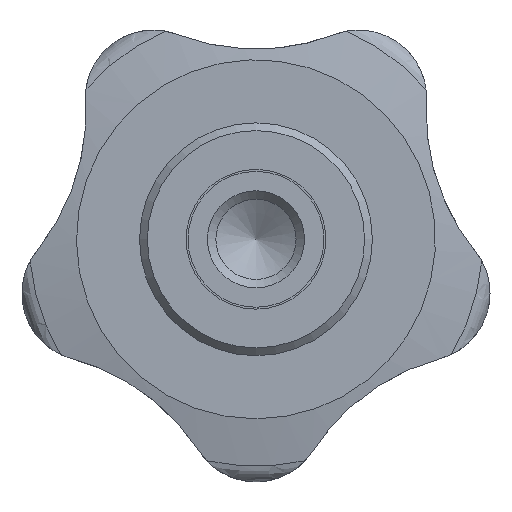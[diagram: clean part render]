
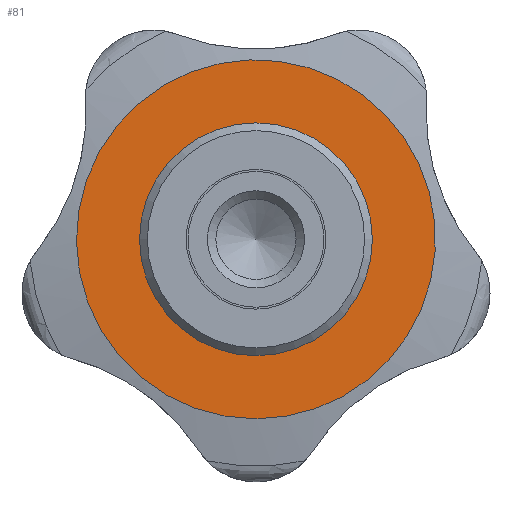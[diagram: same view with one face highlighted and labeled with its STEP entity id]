
A CAD part, front view. The second image highlights one B-rep face of the part: STEP entity #81.
In plain terms, the highlighted planar face has unit normal (0, -1, 0).
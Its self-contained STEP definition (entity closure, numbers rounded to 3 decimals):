
#81 = ADVANCED_FACE( '', ( #125, #126 ), #127, .F. );
#125 = FACE_BOUND( '', #241, .T. );
#126 = FACE_OUTER_BOUND( '', #242, .T. );
#127 = PLANE( '', #243 );
#241 = EDGE_LOOP( '', ( #357 ) );
#242 = EDGE_LOOP( '', ( #358 ) );
#243 = AXIS2_PLACEMENT_3D( '', #359, #360, #361 );
#357 = ORIENTED_EDGE( '', *, *, #606, .F. );
#358 = ORIENTED_EDGE( '', *, *, #607, .T. );
#359 = CARTESIAN_POINT( '', ( 9.25, 10., 0. ) );
#360 = DIRECTION( '', ( 0., 1., 0. ) );
#361 = DIRECTION( '', ( 0., 0., 1. ) );
#606 = EDGE_CURVE( '', #721, #721, #722, .T. );
#607 = EDGE_CURVE( '', #723, #723, #724, .T. );
#721 = VERTEX_POINT( '', #1010 );
#722 = CIRCLE( '', #1011, 6. );
#723 = VERTEX_POINT( '', #1012 );
#724 = CIRCLE( '', #1013, 9.25 );
#1010 = CARTESIAN_POINT( '', ( 0., 10., -6. ) );
#1011 = AXIS2_PLACEMENT_3D( '', #1410, #1411, #1412 );
#1012 = CARTESIAN_POINT( '', ( 0., 10., -9.25 ) );
#1013 = AXIS2_PLACEMENT_3D( '', #1413, #1414, #1415 );
#1410 = CARTESIAN_POINT( '', ( 0., 10., 0. ) );
#1411 = DIRECTION( '', ( 0., -1., 0. ) );
#1412 = DIRECTION( '', ( 0., 0., -1. ) );
#1413 = CARTESIAN_POINT( '', ( 0., 10., 0. ) );
#1414 = DIRECTION( '', ( 0., -1., 0. ) );
#1415 = DIRECTION( '', ( 0., 0., -1. ) );
